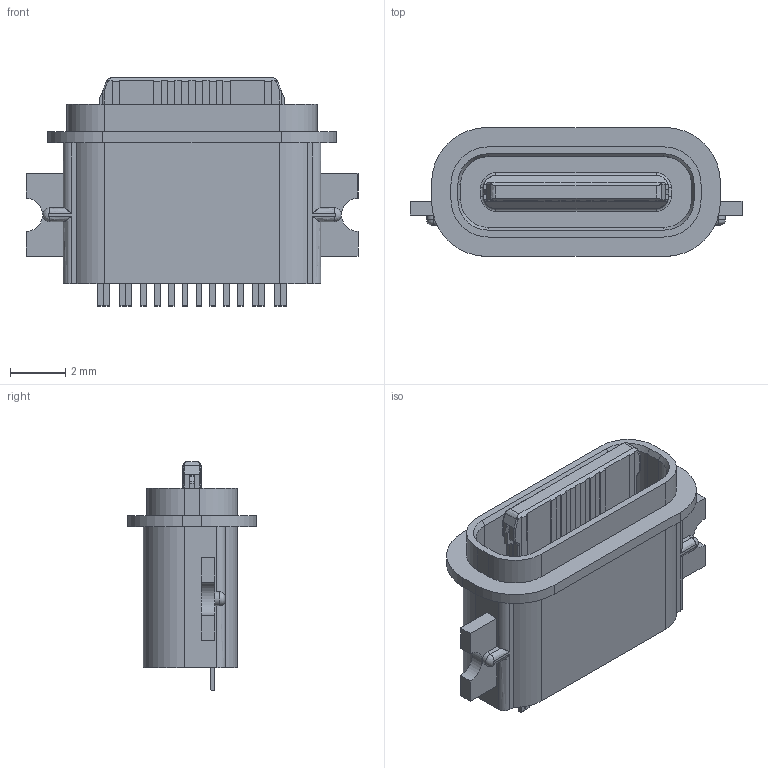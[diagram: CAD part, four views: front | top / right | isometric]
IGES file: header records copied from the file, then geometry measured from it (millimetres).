
Start section:  PTC IGES file: 002.igs
Global section: file name: 002.igs; native system: Creo Parametric by PTC Inc.; preprocessor: 2019080; author: Administrator; organization: Unknown; date: 20230418.090356; units: millimetre
Bounding box: 12 x 4.66 x 8.25 mm (x, y, z)
Surface area: 402.5 mm2 (no closed solid volume)
Topology: 0 solids, 0 shells, 359 faces, 1926 edges, 1926 vertices
Faces by surface type: bspline 259, revolution 100
